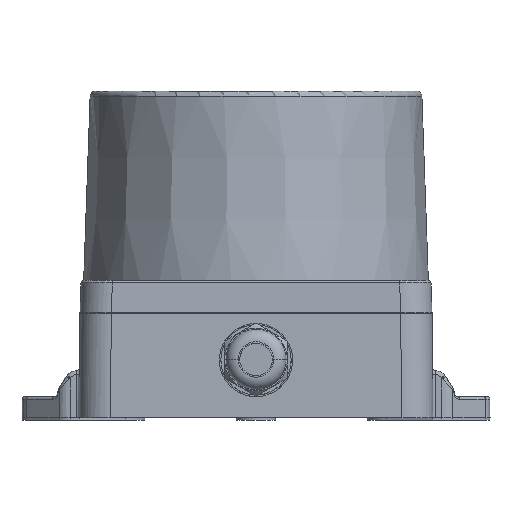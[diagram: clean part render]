
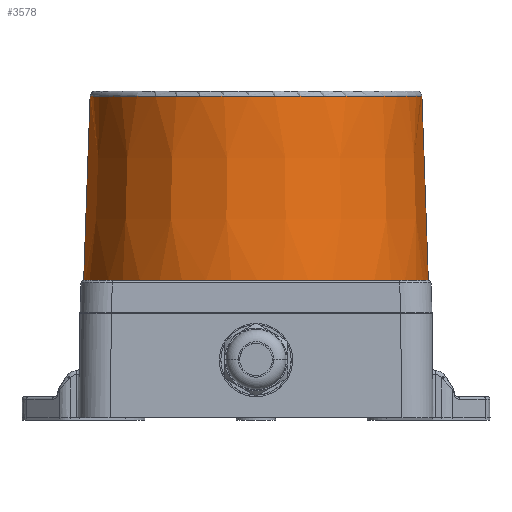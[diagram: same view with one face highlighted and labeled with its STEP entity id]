
A CAD part, front view. The second image highlights one B-rep face of the part: STEP entity #3578.
In plain terms, the highlighted conical face has half-angle 2 degrees and reference radius 65.993 mm.
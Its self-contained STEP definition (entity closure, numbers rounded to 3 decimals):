
#1395 = CARTESIAN_POINT ( 'NONE',  ( -37.905, -48.308, 233.536 ) ) ;
#3578 = ADVANCED_FACE ( 'NONE', ( #28713 ), #14460, .T. ) ;
#4523 = DIRECTION ( 'NONE',  ( 0.035, 0., -0.999 ) ) ;
#4689 = CARTESIAN_POINT ( 'NONE',  ( 91.617, -48.308, 304.106 ) ) ;
#4833 = CARTESIAN_POINT ( 'NONE',  ( 91.617, -111.836, 304.106 ) ) ;
#8802 = CARTESIAN_POINT ( 'NONE',  ( 94.081, -48.308, 233.536 ) ) ;
#8895 = VECTOR ( 'NONE', #9355, 1000. ) ;
#9355 = DIRECTION ( 'NONE',  ( -0.035, 0., -0.999 ) ) ;
#9700 = CARTESIAN_POINT ( 'NONE',  ( -35.44, -111.836, 304.106 ) ) ;
#10106 = VECTOR ( 'NONE', #4523, 1000. ) ;
#11156 = CARTESIAN_POINT ( 'NONE',  ( 91.617, -48.308, 304.106 ) ) ;
#11288 = VERTEX_POINT ( 'NONE', #11156 ) ;
#11574 = EDGE_CURVE ( 'NONE', #30661, #15305, #30310, .T. ) ;
#14361 = CARTESIAN_POINT ( 'NONE',  ( -37.905, -114.301, 233.536 ) ) ;
#14460 = CONICAL_SURFACE ( 'NONE', #23291, 65.993, 0.035 ) ;
#15305 = VERTEX_POINT ( 'NONE', #1395 ) ;
#15413 = CARTESIAN_POINT ( 'NONE',  ( 28.088, -143.601, 304.106 ) ) ;
#16340 = EDGE_LOOP ( 'NONE', ( #31082, #30727, #17028, #31519 ) ) ;
#17028 = ORIENTED_EDGE ( 'NONE', *, *, #29514, .T. ) ;
#21818 = EDGE_CURVE ( 'NONE', #11288, #24391, #28255, .T. ) ;
#23035 = CARTESIAN_POINT ( 'NONE',  ( 91.617, -48.308, 304.106 ) ) ;
#23291 = AXIS2_PLACEMENT_3D ( 'NONE', #30975, #33929, #23695 ) ;
#23695 = DIRECTION ( 'NONE',  ( 1., 0., 0. ) ) ;
#24391 = VERTEX_POINT ( 'NONE', #25037 ) ;
#24392 = CARTESIAN_POINT ( 'NONE',  ( 94.081, -114.301, 233.536 ) ) ;
#25037 = CARTESIAN_POINT ( 'NONE',  ( 94.081, -48.308, 233.536 ) ) ;
#25977 = CARTESIAN_POINT ( 'NONE',  ( -35.44, -48.308, 304.106 ) ) ;
#27171 = CARTESIAN_POINT ( 'NONE',  ( -37.905, -48.308, 233.536 ) ) ;
#27549 = CARTESIAN_POINT ( 'NONE',  ( -35.44, -48.308, 304.106 ) ) ;
#28255 = LINE ( 'NONE', #4689, #10106 ) ;
#28402 =( BOUNDED_CURVE ( )  B_SPLINE_CURVE ( 4, ( #23035, #4833, #15413, #9700, #25977 ),
 .UNSPECIFIED., .F., .F. ) 
 B_SPLINE_CURVE_WITH_KNOTS ( ( 5, 5 ),
 ( 0., 199.581 ),
 .UNSPECIFIED. ) 
 CURVE ( )  GEOMETRIC_REPRESENTATION_ITEM ( )  RATIONAL_B_SPLINE_CURVE ( ( 1., 0.707, 0.667, 0.707, 1. ) ) 
 REPRESENTATION_ITEM ( '' )  );
#28713 = FACE_OUTER_BOUND ( 'NONE', #16340, .T. ) ;
#28729 = EDGE_CURVE ( 'NONE', #11288, #30661, #28402, .T. ) ;
#29514 = EDGE_CURVE ( 'NONE', #15305, #24391, #34235, .T. ) ;
#30310 = LINE ( 'NONE', #27549, #8895 ) ;
#30661 = VERTEX_POINT ( 'NONE', #31562 ) ;
#30727 = ORIENTED_EDGE ( 'NONE', *, *, #11574, .T. ) ;
#30975 = CARTESIAN_POINT ( 'NONE',  ( 28.088, -48.308, 233.536 ) ) ;
#31082 = ORIENTED_EDGE ( 'NONE', *, *, #28729, .T. ) ;
#31519 = ORIENTED_EDGE ( 'NONE', *, *, #21818, .F. ) ;
#31562 = CARTESIAN_POINT ( 'NONE',  ( -35.44, -48.308, 304.106 ) ) ;
#32546 = CARTESIAN_POINT ( 'NONE',  ( 28.088, -147.297, 233.536 ) ) ;
#33929 = DIRECTION ( 'NONE',  ( 0., 0., -1. ) ) ;
#34235 =( BOUNDED_CURVE ( )  B_SPLINE_CURVE ( 4, ( #27171, #14361, #32546, #24392, #8802 ),
 .UNSPECIFIED., .F., .F. ) 
 B_SPLINE_CURVE_WITH_KNOTS ( ( 5, 5 ),
 ( 0., 207.323 ),
 .UNSPECIFIED. ) 
 CURVE ( )  GEOMETRIC_REPRESENTATION_ITEM ( )  RATIONAL_B_SPLINE_CURVE ( ( 1., 0.707, 0.667, 0.707, 1. ) ) 
 REPRESENTATION_ITEM ( '' )  );
